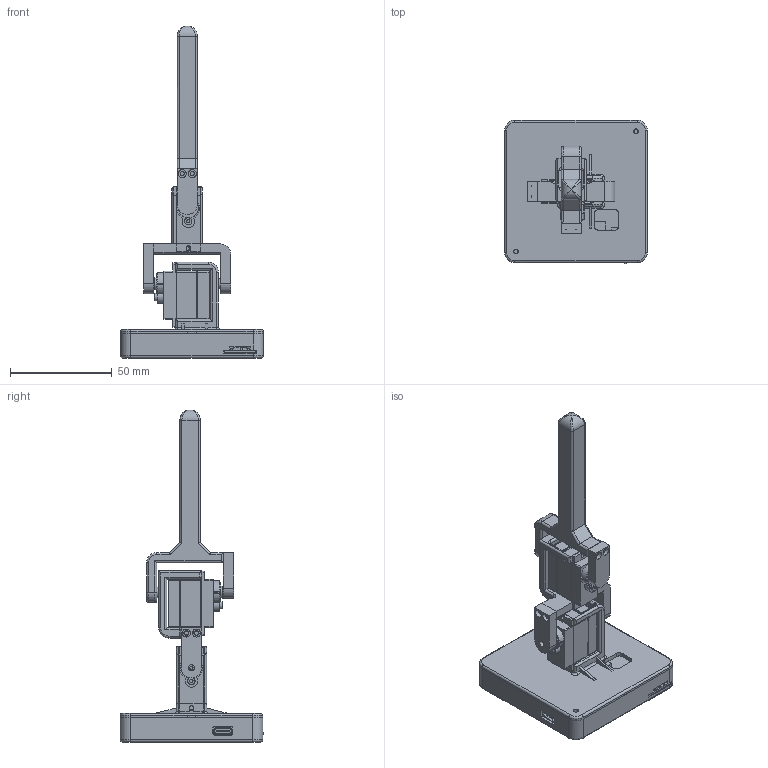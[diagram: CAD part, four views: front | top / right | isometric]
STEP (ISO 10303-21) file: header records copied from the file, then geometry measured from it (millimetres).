
FILE_DESCRIPTION(('Open CASCADE Model'),'2;1');
FILE_NAME('Open CASCADE Shape Model','2026-11-03T19:49:23',('Author'),( 'Open CASCADE'),'Open CASCADE STEP processor 7.9','Open CASCADE 7.9' ,'Unknown');
FILE_SCHEMA(('AUTOMOTIVE_DESIGN { 1 0 10303 214 1 1 1 1 }'));
Length unit declared in the file: millimetre
Products named in the file (13): under_base_pod_C3_review; base_modified; electronics_cup; battery; controller_board; pololu_2810_master_switch; existing_connectors_envelope; middle_link_servo_horn_bracket; upper_servo; top_link_servo_horn_bracket; top_link_main_body; lower_servo; middle_link_main_body
Assembly tree (12 placements, depth 2):
  under_base_pod_C3_review
    base_modified
    electronics_cup
    battery
    controller_board
    pololu_2810_master_switch
    existing_connectors_envelope
    middle_link_servo_horn_bracket
    upper_servo
    top_link_servo_horn_bracket
    top_link_main_body
    lower_servo
    middle_link_main_body
Bounding box: 70 x 70.59 x 163 mm (x, y, z)
Volume: 67798.8 mm3; surface area: 51183.7 mm2
Topology: 14 solids, 18 shells, 2633 faces, 7078 edges, 4577 vertices
Faces by surface type: plane 1826, cylinder 554, bspline 158, torus 52, sphere 22, cone 21
Full cylindrical faces by diameter (mm): 0.3 x1, 0.4 x2, 0.5 x2, 0.508 x1, 0.6 x2, 0.75 x16, 0.9 x2, 1.016 x14, 1.524 x4, 1.6 x4, 2 x12, 2.4 x2, 2.5 x2, 3 x1, 3.6 x2, 3.9 x4, 5 x3, 5.2 x2, 6 x2
Entity records: 185026 total; most frequent: CARTESIAN_POINT 44285, DIRECTION 25569, LINE 17596, VECTOR 17596, ORIENTED_EDGE 14104, PCURVE 14104, DEFINITIONAL_REPRESENTATION 14104, EDGE_CURVE 7052
